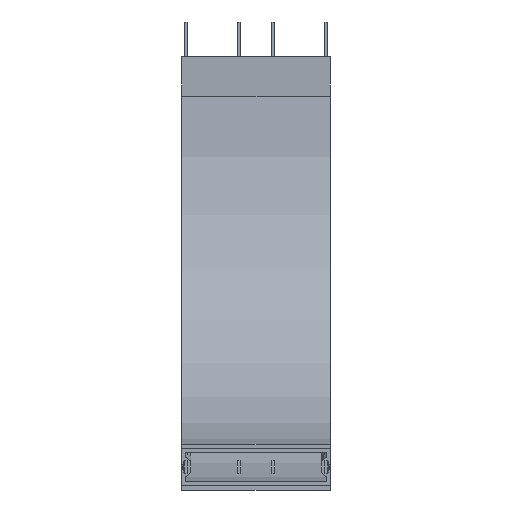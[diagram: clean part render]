
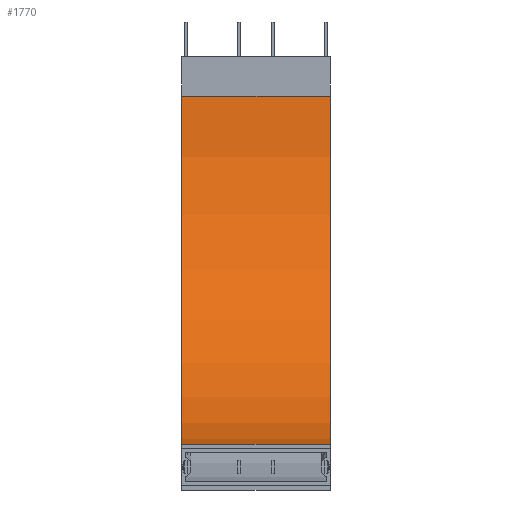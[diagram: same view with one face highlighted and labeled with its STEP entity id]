
A CAD part, front view. The second image highlights one B-rep face of the part: STEP entity #1770.
In plain terms, the highlighted cylindrical face has radius 703.5 mm (diameter 1407 mm), a partial arc.
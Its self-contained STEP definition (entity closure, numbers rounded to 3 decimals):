
#166 = DIRECTION ( 'NONE',  ( -1., 0., 0. ) ) ;
#304 = CARTESIAN_POINT ( 'NONE',  ( 0., 80., 750. ) ) ;
#359 = VECTOR ( 'NONE', #10000, 1000. ) ;
#372 = CARTESIAN_POINT ( 'NONE',  ( -150., 783.5, 750. ) ) ;
#471 = CARTESIAN_POINT ( 'NONE',  ( 150., 80., 46.5 ) ) ;
#919 = EDGE_LOOP ( 'NONE', ( #4198, #10108, #1367, #8354 ) ) ;
#1186 = VECTOR ( 'NONE', #166, 1000. ) ;
#1272 = FACE_OUTER_BOUND ( 'NONE', #919, .T. ) ;
#1367 = ORIENTED_EDGE ( 'NONE', *, *, #8518, .T. ) ;
#1420 = VERTEX_POINT ( 'NONE', #471 ) ;
#1770 = ADVANCED_FACE ( 'NONE', ( #1272 ), #3397, .F. ) ;
#1959 = CARTESIAN_POINT ( 'NONE',  ( 150., 783.5, 750. ) ) ;
#2676 = CARTESIAN_POINT ( 'NONE',  ( 150., 80., 750. ) ) ;
#3081 = VERTEX_POINT ( 'NONE', #8721 ) ;
#3341 = DIRECTION ( 'NONE',  ( -1., 0., 0. ) ) ;
#3397 = CYLINDRICAL_SURFACE ( 'NONE', #7846, 703.5 ) ;
#4077 = LINE ( 'NONE', #372, #1186 ) ;
#4198 = ORIENTED_EDGE ( 'NONE', *, *, #6179, .F. ) ;
#4420 = EDGE_CURVE ( 'NONE', #6065, #3081, #6272, .T. ) ;
#4518 = CARTESIAN_POINT ( 'NONE',  ( -150., 80., 46.5 ) ) ;
#4947 = AXIS2_PLACEMENT_3D ( 'NONE', #8100, #3341, #9615 ) ;
#5018 = DIRECTION ( 'NONE',  ( -1., 0., 0. ) ) ;
#5784 = DIRECTION ( 'NONE',  ( -1., 0., 0. ) ) ;
#6065 = VERTEX_POINT ( 'NONE', #8817 ) ;
#6179 = EDGE_CURVE ( 'NONE', #1420, #3081, #6749, .T. ) ;
#6272 = CIRCLE ( 'NONE', #4947, 703.5 ) ;
#6749 = LINE ( 'NONE', #4518, #359 ) ;
#6997 = VERTEX_POINT ( 'NONE', #1959 ) ;
#7121 = AXIS2_PLACEMENT_3D ( 'NONE', #2676, #5018, #7243 ) ;
#7243 = DIRECTION ( 'NONE',  ( 0., 1., 0. ) ) ;
#7846 = AXIS2_PLACEMENT_3D ( 'NONE', #304, #5784, #8946 ) ;
#8100 = CARTESIAN_POINT ( 'NONE',  ( -150., 80., 750. ) ) ;
#8354 = ORIENTED_EDGE ( 'NONE', *, *, #4420, .T. ) ;
#8518 = EDGE_CURVE ( 'NONE', #6997, #6065, #4077, .T. ) ;
#8721 = CARTESIAN_POINT ( 'NONE',  ( -150., 80., 46.5 ) ) ;
#8817 = CARTESIAN_POINT ( 'NONE',  ( -150., 783.5, 750. ) ) ;
#8903 = EDGE_CURVE ( 'NONE', #6997, #1420, #9764, .T. ) ;
#8946 = DIRECTION ( 'NONE',  ( 0., 0., 1. ) ) ;
#9615 = DIRECTION ( 'NONE',  ( 0., 1., 0. ) ) ;
#9764 = CIRCLE ( 'NONE', #7121, 703.5 ) ;
#10000 = DIRECTION ( 'NONE',  ( -1., 0., 0. ) ) ;
#10108 = ORIENTED_EDGE ( 'NONE', *, *, #8903, .F. ) ;
